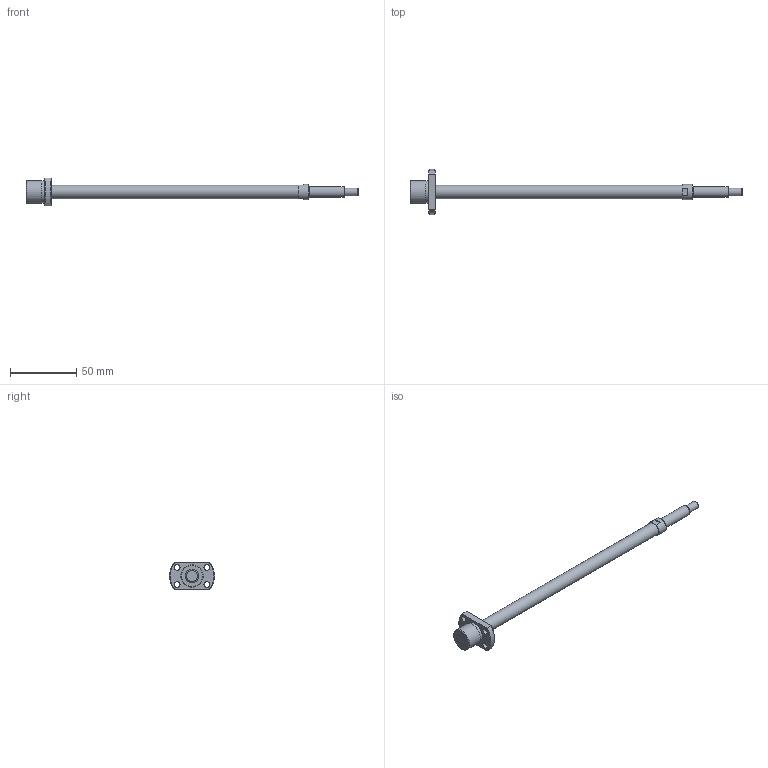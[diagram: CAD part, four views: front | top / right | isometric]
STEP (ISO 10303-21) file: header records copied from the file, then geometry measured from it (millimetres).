
FILE_DESCRIPTION( ( 'STEP AP203' ), '1' );
FILE_NAME( 'e:/temp/worker_97/temp/exporttempdir_3888_1646_TXNf0/format_0/PSRT1002K-201R250C5A0X(A0).stp', '2021-10-19T08:16:35', ( 'License CC BY-ND 4.0' ), ( 'CADENAS' ), ' ', 'PARTsolutions', ' ' );
FILE_SCHEMA( ( 'CONFIG_CONTROL_DESIGN' ) );
Length unit declared in the file: millimetre
Products named in the file (3): PSRT1002K-201R250C5A0X(A0); _PSRT1002KA_shaft; _PSR1002K_nut
Assembly tree (2 placements, depth 2):
  PSRT1002K-201R250C5A0X(A0)
    _PSRT1002KA_shaft
    _PSR1002K_nut
Bounding box: 250 x 34 x 21 mm (x, y, z)
Volume: 23184.7 mm3; surface area: 10903.2 mm2
Topology: 2 solids, 2 shells, 39 faces, 84 edges, 53 vertices
Faces by surface type: plane 16, cylinder 13, cone 9, torus 1
Full cylindrical faces by diameter (mm): 4.5 x4, 6 x1, 8 x1, 10 x2, 11.5 x1, 16.6 x1, 17 x1
Entity records: 1108 total; most frequent: CARTESIAN_POINT 184, DIRECTION 182, ORIENTED_EDGE 132, AXIS2_PLACEMENT_3D 82, EDGE_LOOP 70, EDGE_CURVE 66, VERTEX_POINT 52, FACE_OUTER_BOUND 51
